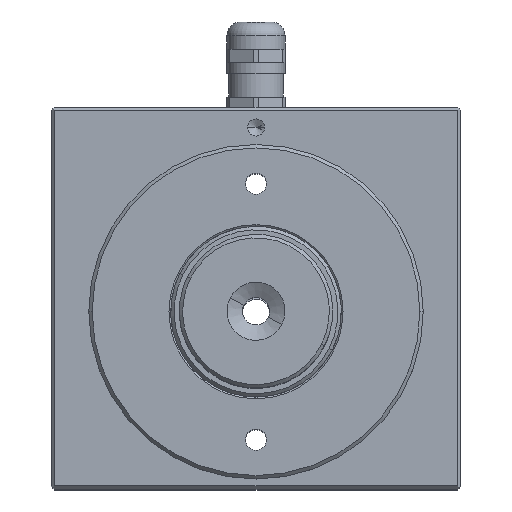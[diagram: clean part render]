
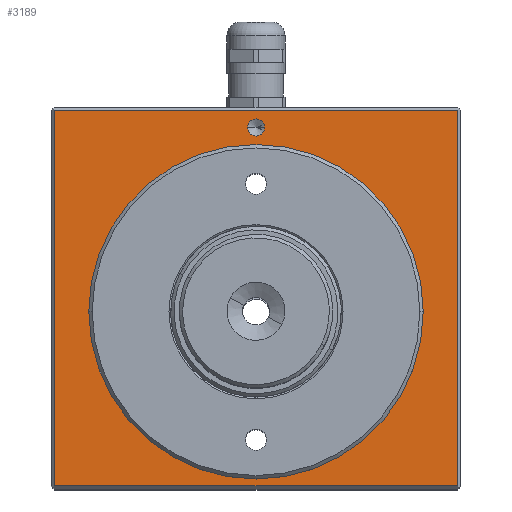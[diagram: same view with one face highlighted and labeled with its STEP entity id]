
A CAD part, top view. The second image highlights one B-rep face of the part: STEP entity #3189.
In plain terms, the highlighted planar face has unit normal (0, 0, 1).
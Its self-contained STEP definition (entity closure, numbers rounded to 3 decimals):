
#48 = VERTEX_POINT ( 'NONE', #188 ) ;
#64 = VECTOR ( 'NONE', #5659, 1000. ) ;
#115 = CARTESIAN_POINT ( 'NONE',  ( 24.92, 25.831, 154.656 ) ) ;
#121 = ORIENTED_EDGE ( 'NONE', *, *, #4921, .F. ) ;
#188 = CARTESIAN_POINT ( 'NONE',  ( 27.428, 79.831, 154.656 ) ) ;
#355 = VECTOR ( 'NONE', #462, 1000. ) ;
#365 = LINE ( 'NONE', #1580, #2807 ) ;
#383 = CARTESIAN_POINT ( 'NONE',  ( -34.08, -25.169, 154.656 ) ) ;
#408 = DIRECTION ( 'NONE',  ( 0., 0., 1. ) ) ;
#462 = DIRECTION ( 'NONE',  ( 0., 1., 0. ) ) ;
#492 = DIRECTION ( 'NONE',  ( 1., 0., 0. ) ) ;
#534 = LINE ( 'NONE', #2231, #64 ) ;
#611 = FACE_OUTER_BOUND ( 'NONE', #1176, .T. ) ;
#625 = DIRECTION ( 'NONE',  ( 1., 0., 0. ) ) ;
#759 = DIRECTION ( 'NONE',  ( 0., 0., 1. ) ) ;
#782 = ORIENTED_EDGE ( 'NONE', *, *, #5623, .F. ) ;
#814 = CARTESIAN_POINT ( 'NONE',  ( 83.92, 84.831, 154.656 ) ) ;
#880 = AXIS2_PLACEMENT_3D ( 'NONE', #6387, #3410, #492 ) ;
#1105 = DIRECTION ( 'NONE',  ( 0., -1., 0. ) ) ;
#1120 = EDGE_CURVE ( 'NONE', #48, #2782, #4871, .T. ) ;
#1176 = EDGE_LOOP ( 'NONE', ( #1906, #3317, #6024, #2896 ) ) ;
#1420 = LINE ( 'NONE', #6021, #2413 ) ;
#1580 = CARTESIAN_POINT ( 'NONE',  ( 83.92, -25.169, 154.656 ) ) ;
#1593 = EDGE_LOOP ( 'NONE', ( #121, #6113 ) ) ;
#1906 = ORIENTED_EDGE ( 'NONE', *, *, #2387, .T. ) ;
#2011 = CARTESIAN_POINT ( 'NONE',  ( 22.428, 79.831, 154.656 ) ) ;
#2231 = CARTESIAN_POINT ( 'NONE',  ( -34.08, 84.831, 154.656 ) ) ;
#2302 = AXIS2_PLACEMENT_3D ( 'NONE', #5807, #408, #3836 ) ;
#2360 = PLANE ( 'NONE',  #2302 ) ;
#2384 = EDGE_CURVE ( 'NONE', #4481, #3285, #2558, .T. ) ;
#2387 = EDGE_CURVE ( 'NONE', #3647, #2552, #1420, .T. ) ;
#2413 = VECTOR ( 'NONE', #1105, 1000. ) ;
#2493 = AXIS2_PLACEMENT_3D ( 'NONE', #115, #3535, #625 ) ;
#2534 = CARTESIAN_POINT ( 'NONE',  ( 24.92, 25.831, 154.656 ) ) ;
#2552 = VERTEX_POINT ( 'NONE', #383 ) ;
#2558 = CIRCLE ( 'NONE', #2493, 46.4 ) ;
#2782 = VERTEX_POINT ( 'NONE', #2011 ) ;
#2807 = VECTOR ( 'NONE', #5607, 1000. ) ;
#2896 = ORIENTED_EDGE ( 'NONE', *, *, #3003, .T. ) ;
#2935 = ORIENTED_EDGE ( 'NONE', *, *, #1120, .F. ) ;
#2939 = CARTESIAN_POINT ( 'NONE',  ( 71.32, 25.831, 154.656 ) ) ;
#3003 = EDGE_CURVE ( 'NONE', #4643, #3647, #534, .T. ) ;
#3025 = DIRECTION ( 'NONE',  ( 1., 0., 0. ) ) ;
#3093 = LINE ( 'NONE', #4386, #355 ) ;
#3189 = ADVANCED_FACE ( 'NONE', ( #611, #3941, #3204 ), #2360, .T. ) ;
#3204 = FACE_BOUND ( 'NONE', #1593, .T. ) ;
#3285 = VERTEX_POINT ( 'NONE', #2939 ) ;
#3317 = ORIENTED_EDGE ( 'NONE', *, *, #3478, .T. ) ;
#3410 = DIRECTION ( 'NONE',  ( 0., 0., 1. ) ) ;
#3422 = AXIS2_PLACEMENT_3D ( 'NONE', #3680, #759, #4183 ) ;
#3478 = EDGE_CURVE ( 'NONE', #2552, #4045, #365, .T. ) ;
#3535 = DIRECTION ( 'NONE',  ( 0., 0., 1. ) ) ;
#3647 = VERTEX_POINT ( 'NONE', #6211 ) ;
#3680 = CARTESIAN_POINT ( 'NONE',  ( 24.928, 79.831, 154.656 ) ) ;
#3836 = DIRECTION ( 'NONE',  ( 1., 0., 0. ) ) ;
#3941 = FACE_BOUND ( 'NONE', #4673, .T. ) ;
#4045 = VERTEX_POINT ( 'NONE', #5868 ) ;
#4183 = DIRECTION ( 'NONE',  ( 1., 0., 0. ) ) ;
#4328 = EDGE_CURVE ( 'NONE', #4045, #4643, #3093, .T. ) ;
#4386 = CARTESIAN_POINT ( 'NONE',  ( 83.92, 85.831, 154.656 ) ) ;
#4481 = VERTEX_POINT ( 'NONE', #5014 ) ;
#4643 = VERTEX_POINT ( 'NONE', #814 ) ;
#4673 = EDGE_LOOP ( 'NONE', ( #2935, #782 ) ) ;
#4871 = CIRCLE ( 'NONE', #3422, 2.5 ) ;
#4921 = EDGE_CURVE ( 'NONE', #3285, #4481, #6240, .T. ) ;
#5014 = CARTESIAN_POINT ( 'NONE',  ( -21.48, 25.831, 154.656 ) ) ;
#5518 = AXIS2_PLACEMENT_3D ( 'NONE', #2534, #5994, #3025 ) ;
#5607 = DIRECTION ( 'NONE',  ( 1., 0., 0. ) ) ;
#5623 = EDGE_CURVE ( 'NONE', #2782, #48, #5698, .T. ) ;
#5659 = DIRECTION ( 'NONE',  ( -1., 0., 0. ) ) ;
#5698 = CIRCLE ( 'NONE', #880, 2.5 ) ;
#5807 = CARTESIAN_POINT ( 'NONE',  ( -35.08, -34.169, 154.656 ) ) ;
#5868 = CARTESIAN_POINT ( 'NONE',  ( 83.92, -25.169, 154.656 ) ) ;
#5994 = DIRECTION ( 'NONE',  ( 0., 0., 1. ) ) ;
#6021 = CARTESIAN_POINT ( 'NONE',  ( -34.08, -34.169, 154.656 ) ) ;
#6024 = ORIENTED_EDGE ( 'NONE', *, *, #4328, .T. ) ;
#6113 = ORIENTED_EDGE ( 'NONE', *, *, #2384, .F. ) ;
#6211 = CARTESIAN_POINT ( 'NONE',  ( -34.08, 84.831, 154.656 ) ) ;
#6240 = CIRCLE ( 'NONE', #5518, 46.4 ) ;
#6387 = CARTESIAN_POINT ( 'NONE',  ( 24.928, 79.831, 154.656 ) ) ;
